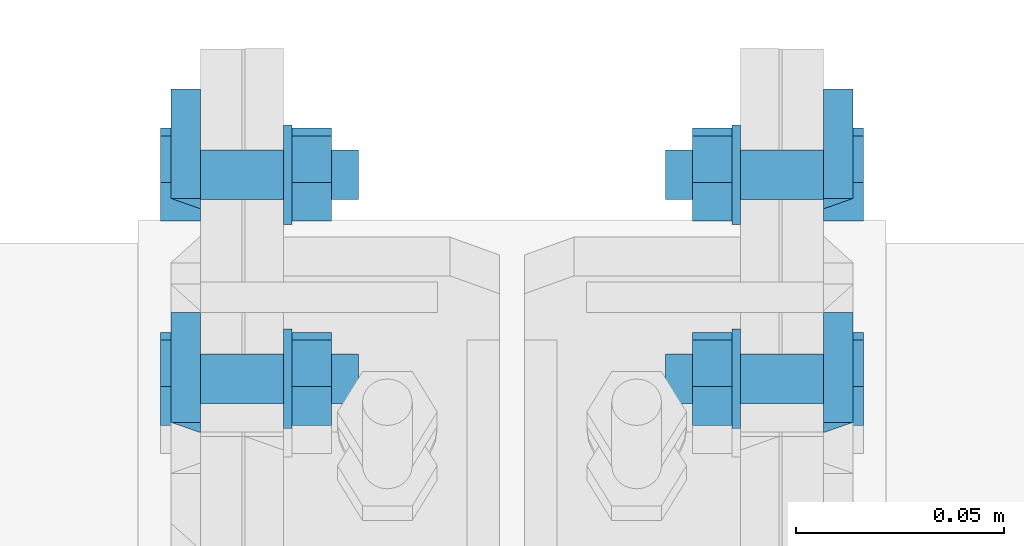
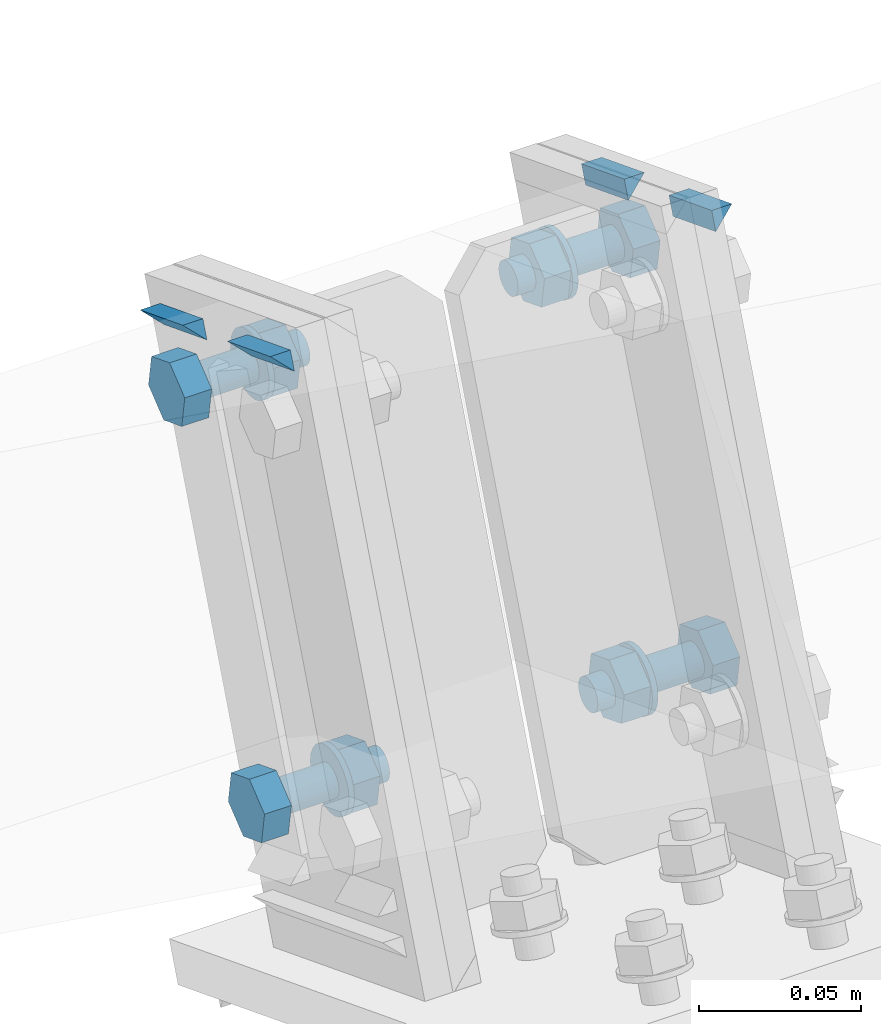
# One storey, part 51 of 72: 16 mechanical fasteners, 8 fasteners.
"""IFC4 building model written with IfcOpenShell, lengths in metres."""

from ifc_helpers import new_model, si_unit, frame, origin_with_axes, place, context, project, spatial, polyline, outline, extrude, type_object, element, save


model = new_model("IFC4")

# Units and contexts
model_context = context("Model", 3, precision=1e-05, world=origin_with_axes())
ifc_project = project(units=[si_unit("LENGTHUNIT", "METRE"), si_unit("AREAUNIT", "SQUARE_METRE"), si_unit("VOLUMEUNIT", "CUBIC_METRE"), si_unit("MASSUNIT", "GRAM", prefix="KILO"), si_unit("TIMEUNIT", "SECOND"), si_unit("PLANEANGLEUNIT", "RADIAN"), si_unit("SOLIDANGLEUNIT", "STERADIAN"), si_unit("THERMODYNAMICTEMPERATUREUNIT", "DEGREE_CELSIUS")], contexts=[model_context])

# Site, building, storey
placement_1 = place(None, origin_with_axes())
site = spatial("IfcSite", under=ifc_project, at=placement_1, Name="Italia", CompositionType="ELEMENT")
building = spatial("IfcBuilding", under=site, at=placement_1, Name="Uffici", CompositionType="ELEMENT")
storey = spatial("IfcBuildingStorey", under=building, at=placement_1, Name="Storey 0", CompositionType="ELEMENT", Elevation=0.0)

# Fasteners
fastener_type_1 = type_object("IfcFastenerType", Name="Collegamento 0208_0207", PredefinedType="WELD")
placement_2 = place(placement_1, origin_with_axes())
fastener_1_placement = place(placement_2, origin_with_axes())
element("IfcFastener", 1, at=fastener_1_placement, inside=storey, type_object=fastener_type_1, Name="Collegamento 0208_0207", context=model_context, shape_type="SweptSolid", body=[
    extrude(outline(polyline([(0.0, 0.0), (-0.00717354, 0.00695801), (0.0, 0.00695801), (0.0, 0.0)])), frame((6.68005, 4.93457, 5.31007), z_axis=(0.0, -0.932385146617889, 0.361466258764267), x_axis=(1.0, 0.0, 0.0)), (0.0, 0.0, 1.0), 0.0283003),
])
fastener_type_2 = type_object("IfcFastenerType", Name="Collegamento 0208_0207", PredefinedType="WELD")
fastener_2_placement = place(placement_2, origin_with_axes())
element("IfcFastener", 2, at=fastener_2_placement, inside=storey, type_object=fastener_type_2, Name="Collegamento 0208_0207", context=model_context, shape_type="SweptSolid", body=[
    extrude(outline(polyline([(0.0, 0.0), (-0.00717354, 0.00695801), (0.0, 0.00695801), (0.0, 0.0)])), frame((6.68005, 4.88068, 5.33097), z_axis=(0.0, -0.932388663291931, 0.361457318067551), x_axis=(1.0, 0.0, 0.0)), (0.0, 0.0, 1.0), 0.0282996),
])
fastener_type_3 = type_object("IfcFastenerType", Name="Collegamento 0208_0207", PredefinedType="WELD")
fastener_3_placement = place(placement_2, origin_with_axes())
element("IfcFastener", 3, at=fastener_3_placement, inside=storey, type_object=fastener_type_3, Name="Collegamento 0208_0207", context=model_context, shape_type="SweptSolid", body=[
    extrude(outline(polyline([(0.0, 0.0), (-0.00717354, 0.00695801), (0.0, 0.00695801), (0.0, 0.0)])), frame((6.68005, 4.93457, 5.31007), z_axis=(0.0, -0.932385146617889, 0.361466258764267), x_axis=(1.0, 0.0, 0.0)), (0.0, 0.0, 1.0), 0.0283003),
])
fastener_type_4 = type_object("IfcFastenerType", Name="Collegamento 0208_0207", PredefinedType="WELD")
fastener_4_placement = place(placement_2, origin_with_axes())
element("IfcFastener", 4, at=fastener_4_placement, inside=storey, type_object=fastener_type_4, Name="Collegamento 0208_0207", context=model_context, shape_type="SweptSolid", body=[
    extrude(outline(polyline([(0.0, 0.0), (-0.00717354, 0.00695801), (0.0, 0.00695801), (0.0, 0.0)])), frame((6.68005, 4.88068, 5.33097), z_axis=(0.0, -0.932388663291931, 0.361457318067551), x_axis=(1.0, 0.0, 0.0)), (0.0, 0.0, 1.0), 0.0282996),
])

# Mechanical fasteners
mechanical_fastener_type_1 = type_object("IfcMechanicalFastenerType", Name="Collegamento 0208_0207", PredefinedType="BOLT")
mechanical_fastener_1_placement = place(placement_2, origin_with_axes())
element("IfcMechanicalFastener", 5, at=mechanical_fastener_1_placement, inside=storey, type_object=mechanical_fastener_type_1, Name="Collegamento 0208_0207", NominalDiameter=0.0119998, context=model_context, shape_type="SweptSolid", body=[
    extrude(outline(polyline([(0.0, 0.0), (-0.0111885, -0.00433731), (-0.0205393, 0.00318336), (-0.0187016, 0.0150418), (-0.00751305, 0.0193791), (0.00183773, 0.0118585), (0.0, 0.0)])), frame((6.68, 4.8579, 5.16499), z_axis=(-1.0, 0.0, 0.0), x_axis=(0.0, -1.0, 0.0)), (0.0, 0.0, 1.0), 0.00960016),
])
mechanical_fastener_type_2 = type_object("IfcMechanicalFastenerType", Name="Collegamento 0208_0207", PredefinedType="BOLT")
mechanical_fastener_2_placement = place(placement_2, origin_with_axes())
element("IfcMechanicalFastener", 6, at=mechanical_fastener_2_placement, inside=storey, type_object=mechanical_fastener_type_2, Name="Collegamento 0208_0207", NominalDiameter=0.012, context=model_context, shape_type="SweptSolid", body=[
    extrude(outline(polyline([(0.0, 0.0), (-0.000204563, -0.00155306), (-0.000803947, -0.00299978), (-0.00175762, -0.00424242), (-0.00300026, -0.00519609), (-0.00444698, -0.00579548), (-0.00600004, -0.00600004), (-0.0075531, -0.00579548), (-0.00899982, -0.00519609), (-0.0102425, -0.00424242), (-0.0111961, -0.00299978), (-0.0117955, -0.00155306), (-0.0120001, 0.0), (-0.0117955, 0.00155306), (-0.0111961, 0.00299978), (-0.0102425, 0.00424242), (-0.00899982, 0.00519609), (-0.0075531, 0.00579548), (-0.00600004, 0.00600004), (-0.00444698, 0.00579548), (-0.00300026, 0.00519609), (-0.00175762, 0.00424242), (-0.000803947, 0.00299978), (-0.000204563, 0.00155306), (0.0, 0.0)])), frame((6.718, 4.86125, 5.17251), z_axis=(-1.0, 0.0, 0.0), x_axis=(0.0, -1.0, 0.0)), (0.0, 0.0, 1.0), 0.0380001),
])
mechanical_fastener_type_3 = type_object("IfcMechanicalFastenerType", Name="Collegamento 0208_0207", PredefinedType="BOLT")
mechanical_fastener_3_placement = place(placement_2, origin_with_axes())
element("IfcMechanicalFastener", 7, at=mechanical_fastener_3_placement, inside=storey, type_object=mechanical_fastener_type_3, Name="Collegamento 0208_0207", NominalDiameter=0.0119998, context=model_context, shape_type="SweptSolid", body=[
    extrude(outline(polyline([(0.0, 0.0), (-0.0111885, -0.00433731), (-0.0205393, 0.00318336), (-0.0187016, 0.0150418), (-0.00751305, 0.0193791), (0.00183773, 0.0118585), (0.0, 0.0)])), frame((6.7116, 4.8579, 5.16499), z_axis=(-1.0, 0.0, 0.0), x_axis=(0.0, -1.0, 0.0)), (0.0, 0.0, 1.0), 0.00960016),
])
mechanical_fastener_type_4 = type_object("IfcMechanicalFastenerType", Name="Collegamento 0208_0207", PredefinedType="BOLT")
mechanical_fastener_4_placement = place(placement_2, origin_with_axes())
element("IfcMechanicalFastener", 8, at=mechanical_fastener_4_placement, inside=storey, type_object=mechanical_fastener_type_4, Name="Collegamento 0208_0207", NominalDiameter=0.024, context=model_context, shape_type="SweptSolid", body=[
    extrude(outline(polyline([(0.0, 0.0), (-0.000409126, -0.00310564), (-0.00160789, -0.00600004), (-0.00351477, -0.00848532), (-0.00600004, -0.0103922), (-0.00889444, -0.011591), (-0.0120001, -0.0120001), (-0.0151057, -0.011591), (-0.0180001, -0.0103922), (-0.0204854, -0.00848532), (-0.0223923, -0.00600004), (-0.023591, -0.00310564), (-0.0240002, 0.0), (-0.023591, 0.00310564), (-0.0223923, 0.00600004), (-0.0204854, 0.00848532), (-0.0180001, 0.0103922), (-0.0151057, 0.011591), (-0.0120001, 0.0120001), (-0.00889444, 0.011591), (-0.00600004, 0.0103922), (-0.00351477, 0.00848532), (-0.00160789, 0.00600004), (-0.000409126, 0.00310564), (0.0, 0.0)])), frame((6.702, 4.85525, 5.17251), z_axis=(-1.0, 0.0, 0.0), x_axis=(0.0, -1.0, 0.0)), (0.0, 0.0, 1.0), 0.00199986),
])
mechanical_fastener_type_5 = type_object("IfcMechanicalFastenerType", Name="Collegamento 0208_0207", PredefinedType="BOLT")
mechanical_fastener_5_placement = place(placement_2, origin_with_axes())
element("IfcMechanicalFastener", 9, at=mechanical_fastener_5_placement, inside=storey, type_object=mechanical_fastener_type_5, Name="Collegamento 0208_0207", NominalDiameter=0.0119998, context=model_context, shape_type="SweptSolid", body=[
    extrude(outline(polyline([(0.0, 0.0), (-0.0111885, -0.00433779), (-0.0205393, 0.00318336), (-0.0187011, 0.0150418), (-0.00751257, 0.0193791), (0.00183821, 0.0118585), (0.0, 0.0)])), frame((6.68, 4.90705, 5.2918), z_axis=(-1.0, 0.0, 0.0), x_axis=(0.0, -1.0, 0.0)), (0.0, 0.0, 1.0), 0.00960016),
])
mechanical_fastener_type_6 = type_object("IfcMechanicalFastenerType", Name="Collegamento 0208_0207", PredefinedType="BOLT")
mechanical_fastener_6_placement = place(placement_2, origin_with_axes())
element("IfcMechanicalFastener", 10, at=mechanical_fastener_6_placement, inside=storey, type_object=mechanical_fastener_type_6, Name="Collegamento 0208_0207", NominalDiameter=0.012, context=model_context, shape_type="SweptSolid", body=[
    extrude(outline(polyline([(0.0, 0.0), (-0.000204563, -0.00155306), (-0.000803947, -0.00299978), (-0.00175762, -0.00424242), (-0.00300026, -0.00519609), (-0.00444698, -0.00579548), (-0.00600004, -0.00600004), (-0.0075531, -0.00579548), (-0.00899982, -0.00519609), (-0.0102425, -0.00424242), (-0.0111961, -0.00299978), (-0.0117955, -0.00155306), (-0.0120001, 0.0), (-0.0117955, 0.00155306), (-0.0111961, 0.00299978), (-0.0102425, 0.00424242), (-0.00899982, 0.00519609), (-0.0075531, 0.00579548), (-0.00600004, 0.00600004), (-0.00444698, 0.00579548), (-0.00300026, 0.00519609), (-0.00175762, 0.00424242), (-0.000803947, 0.00299978), (-0.000204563, 0.00155306), (0.0, 0.0)])), frame((6.718, 4.9104, 5.29932), z_axis=(-1.0, 0.0, 0.0), x_axis=(0.0, -1.0, 0.0)), (0.0, 0.0, 1.0), 0.0380001),
])
mechanical_fastener_type_7 = type_object("IfcMechanicalFastenerType", Name="Collegamento 0208_0207", PredefinedType="BOLT")
mechanical_fastener_7_placement = place(placement_2, origin_with_axes())
element("IfcMechanicalFastener", 11, at=mechanical_fastener_7_placement, inside=storey, type_object=mechanical_fastener_type_7, Name="Collegamento 0208_0207", NominalDiameter=0.0119998, context=model_context, shape_type="SweptSolid", body=[
    extrude(outline(polyline([(0.0, 0.0), (-0.0111885, -0.00433779), (-0.0205393, 0.00318336), (-0.0187011, 0.0150418), (-0.00751257, 0.0193791), (0.00183821, 0.0118585), (0.0, 0.0)])), frame((6.7116, 4.90705, 5.2918), z_axis=(-1.0, 0.0, 0.0), x_axis=(0.0, -1.0, 0.0)), (0.0, 0.0, 1.0), 0.00960016),
])
mechanical_fastener_type_8 = type_object("IfcMechanicalFastenerType", Name="Collegamento 0208_0207", PredefinedType="BOLT")
mechanical_fastener_8_placement = place(placement_2, origin_with_axes())
element("IfcMechanicalFastener", 12, at=mechanical_fastener_8_placement, inside=storey, type_object=mechanical_fastener_type_8, Name="Collegamento 0208_0207", NominalDiameter=0.024, context=model_context, shape_type="SweptSolid", body=[
    extrude(outline(polyline([(0.0, 0.0), (-0.000409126, -0.00310564), (-0.00160789, -0.00600004), (-0.00351477, -0.00848532), (-0.00600004, -0.0103922), (-0.00889444, -0.011591), (-0.0120001, -0.0120001), (-0.0151057, -0.011591), (-0.0180001, -0.0103922), (-0.0204854, -0.00848532), (-0.0223923, -0.00600004), (-0.023591, -0.00310564), (-0.0240002, 0.0), (-0.023591, 0.00310564), (-0.0223923, 0.00600004), (-0.0204854, 0.00848532), (-0.0180001, 0.0103922), (-0.0151057, 0.011591), (-0.0120001, 0.0120001), (-0.00889444, 0.011591), (-0.00600004, 0.0103922), (-0.00351477, 0.00848532), (-0.00160789, 0.00600004), (-0.000409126, 0.00310564), (0.0, 0.0)])), frame((6.702, 4.9044, 5.29932), z_axis=(-1.0, 0.0, 0.0), x_axis=(0.0, -1.0, 0.0)), (0.0, 0.0, 1.0), 0.00199986),
])

# Fasteners
fastener_type_5 = type_object("IfcFastenerType", Name="Collegamento 0208_0209", PredefinedType="WELD")
fastener_5_placement = place(placement_2, origin_with_axes())
element("IfcFastener", 13, at=fastener_5_placement, inside=storey, type_object=fastener_type_5, Name="Collegamento 0208_0209", context=model_context, shape_type="SweptSolid", body=[
    extrude(outline(polyline([(0.0, 0.0), (-0.00717354, 0.00695801), (0.0, 0.00695801), (0.0, 0.0)])), frame((6.82995, 4.90818, 5.3203), z_axis=(0.0, 0.932385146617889, -0.361466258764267), x_axis=(-1.0, 0.0, 0.0)), (0.0, 0.0, 1.0), 0.0283003),
])
fastener_type_6 = type_object("IfcFastenerType", Name="Collegamento 0208_0209", PredefinedType="WELD")
fastener_6_placement = place(placement_2, origin_with_axes())
element("IfcFastener", 14, at=fastener_6_placement, inside=storey, type_object=fastener_type_6, Name="Collegamento 0208_0209", context=model_context, shape_type="SweptSolid", body=[
    extrude(outline(polyline([(0.0, 0.0), (-0.00717354, 0.00695848), (0.0, 0.00695848), (0.0, 0.0)])), frame((6.82995, 4.85429, 5.34119), z_axis=(0.0, 0.932388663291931, -0.361457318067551), x_axis=(-1.0, 0.0, 0.0)), (0.0, 0.0, 1.0), 0.0282996),
])
fastener_type_7 = type_object("IfcFastenerType", Name="Collegamento 0208_0209", PredefinedType="WELD")
fastener_7_placement = place(placement_2, origin_with_axes())
element("IfcFastener", 15, at=fastener_7_placement, inside=storey, type_object=fastener_type_7, Name="Collegamento 0208_0209", context=model_context, shape_type="SweptSolid", body=[
    extrude(outline(polyline([(0.0, 0.0), (-0.00717354, 0.00695801), (0.0, 0.00695801), (0.0, 0.0)])), frame((6.82995, 4.90818, 5.3203), z_axis=(0.0, 0.932385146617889, -0.361466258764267), x_axis=(-1.0, 0.0, 0.0)), (0.0, 0.0, 1.0), 0.0283003),
])
fastener_type_8 = type_object("IfcFastenerType", Name="Collegamento 0208_0209", PredefinedType="WELD")
fastener_8_placement = place(placement_2, origin_with_axes())
element("IfcFastener", 16, at=fastener_8_placement, inside=storey, type_object=fastener_type_8, Name="Collegamento 0208_0209", context=model_context, shape_type="SweptSolid", body=[
    extrude(outline(polyline([(0.0, 0.0), (-0.00717354, 0.00695848), (0.0, 0.00695848), (0.0, 0.0)])), frame((6.82995, 4.85429, 5.34119), z_axis=(0.0, 0.932388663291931, -0.361457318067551), x_axis=(-1.0, 0.0, 0.0)), (0.0, 0.0, 1.0), 0.0282996),
])

# Mechanical fasteners
mechanical_fastener_type_9 = type_object("IfcMechanicalFastenerType", Name="Collegamento 0208_0209", PredefinedType="BOLT")
mechanical_fastener_9_placement = place(placement_2, origin_with_axes())
element("IfcMechanicalFastener", 17, at=mechanical_fastener_9_placement, inside=storey, type_object=mechanical_fastener_type_9, Name="Collegamento 0208_0209", NominalDiameter=0.0119998, context=model_context, shape_type="SweptSolid", body=[
    extrude(outline(polyline([(0.0, 0.0), (-0.0111885, 0.00433731), (-0.0130262, 0.0161958), (-0.00367546, 0.0237164), (0.00751305, 0.0193791), (0.00935078, 0.00752068), (0.0, 0.0)])), frame((6.83, 4.86908, 5.16066), z_axis=(1.0, 0.0, 0.0), x_axis=(0.0, 1.0, 0.0)), (0.0, 0.0, 1.0), 0.00960016),
])
mechanical_fastener_type_10 = type_object("IfcMechanicalFastenerType", Name="Collegamento 0208_0209", PredefinedType="BOLT")
mechanical_fastener_10_placement = place(placement_2, origin_with_axes())
element("IfcMechanicalFastener", 18, at=mechanical_fastener_10_placement, inside=storey, type_object=mechanical_fastener_type_10, Name="Collegamento 0208_0209", NominalDiameter=0.012, context=model_context, shape_type="SweptSolid", body=[
    extrude(outline(polyline([(0.0, 0.0), (-0.000204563, -0.00155306), (-0.000803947, -0.00299978), (-0.00175762, -0.00424242), (-0.00300026, -0.00519609), (-0.00444698, -0.00579548), (-0.00600004, -0.00600004), (-0.0075531, -0.00579548), (-0.00899982, -0.00519609), (-0.0102425, -0.00424242), (-0.0111961, -0.00299978), (-0.0117955, -0.00155306), (-0.0120001, 0.0), (-0.0117955, 0.00155306), (-0.0111961, 0.00299978), (-0.0102425, 0.00424242), (-0.00899982, 0.00519609), (-0.0075531, 0.00579548), (-0.00600004, 0.00600004), (-0.00444698, 0.00579548), (-0.00300026, 0.00519609), (-0.00175762, 0.00424242), (-0.000803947, 0.00299978), (-0.000204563, 0.00155306), (0.0, 0.0)])), frame((6.792, 4.87325, 5.17251), z_axis=(1.0, 0.0, 0.0), x_axis=(0.0, 1.0, 0.0)), (0.0, 0.0, 1.0), 0.0380001),
])
mechanical_fastener_type_11 = type_object("IfcMechanicalFastenerType", Name="Collegamento 0208_0209", PredefinedType="BOLT")
mechanical_fastener_11_placement = place(placement_2, origin_with_axes())
element("IfcMechanicalFastener", 19, at=mechanical_fastener_11_placement, inside=storey, type_object=mechanical_fastener_type_11, Name="Collegamento 0208_0209", NominalDiameter=0.0119998, context=model_context, shape_type="SweptSolid", body=[
    extrude(outline(polyline([(0.0, 0.0), (-0.0111885, 0.00433731), (-0.0130262, 0.0161958), (-0.00367546, 0.0237164), (0.00751305, 0.0193791), (0.00935078, 0.00752068), (0.0, 0.0)])), frame((6.7984, 4.86908, 5.16066), z_axis=(1.0, 0.0, 0.0), x_axis=(0.0, 1.0, 0.0)), (0.0, 0.0, 1.0), 0.00960016),
])
mechanical_fastener_type_12 = type_object("IfcMechanicalFastenerType", Name="Collegamento 0208_0209", PredefinedType="BOLT")
mechanical_fastener_12_placement = place(placement_2, origin_with_axes())
element("IfcMechanicalFastener", 20, at=mechanical_fastener_12_placement, inside=storey, type_object=mechanical_fastener_type_12, Name="Collegamento 0208_0209", NominalDiameter=0.024, context=model_context, shape_type="SweptSolid", body=[
    extrude(outline(polyline([(0.0, 0.0), (-0.000409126, -0.00310564), (-0.00160789, -0.00600004), (-0.00351477, -0.00848532), (-0.00600004, -0.0103922), (-0.00889444, -0.011591), (-0.0120001, -0.0120001), (-0.0151057, -0.011591), (-0.0180001, -0.0103922), (-0.0204854, -0.00848532), (-0.0223923, -0.00600004), (-0.023591, -0.00310564), (-0.0240002, 0.0), (-0.023591, 0.00310564), (-0.0223923, 0.00600004), (-0.0204854, 0.00848532), (-0.0180001, 0.0103922), (-0.0151057, 0.011591), (-0.0120001, 0.0120001), (-0.00889444, 0.011591), (-0.00600004, 0.0103922), (-0.00351477, 0.00848532), (-0.00160789, 0.00600004), (-0.000409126, 0.00310564), (0.0, 0.0)])), frame((6.808, 4.87925, 5.17251), z_axis=(1.0, 0.0, 0.0), x_axis=(0.0, 1.0, 0.0)), (0.0, 0.0, 1.0), 0.00199986),
])
mechanical_fastener_type_13 = type_object("IfcMechanicalFastenerType", Name="Collegamento 0208_0209", PredefinedType="BOLT")
mechanical_fastener_13_placement = place(placement_2, origin_with_axes())
element("IfcMechanicalFastener", 21, at=mechanical_fastener_13_placement, inside=storey, type_object=mechanical_fastener_type_13, Name="Collegamento 0208_0209", NominalDiameter=0.0119998, context=model_context, shape_type="SweptSolid", body=[
    extrude(outline(polyline([(0.0, 0.0), (-0.0111885, 0.00433779), (-0.0130267, 0.0161963), (-0.00367594, 0.0237169), (0.00751257, 0.0193796), (0.00935078, 0.00752115), (0.0, 0.0)])), frame((6.83, 4.91824, 5.28746), z_axis=(1.0, 0.0, 0.0), x_axis=(0.0, 1.0, 0.0)), (0.0, 0.0, 1.0), 0.00960016),
])
mechanical_fastener_type_14 = type_object("IfcMechanicalFastenerType", Name="Collegamento 0208_0209", PredefinedType="BOLT")
mechanical_fastener_14_placement = place(placement_2, origin_with_axes())
element("IfcMechanicalFastener", 22, at=mechanical_fastener_14_placement, inside=storey, type_object=mechanical_fastener_type_14, Name="Collegamento 0208_0209", NominalDiameter=0.012, context=model_context, shape_type="SweptSolid", body=[
    extrude(outline(polyline([(0.0, 0.0), (-0.000204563, -0.00155306), (-0.000803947, -0.00299978), (-0.00175762, -0.00424242), (-0.00300026, -0.00519609), (-0.00444698, -0.00579548), (-0.00600004, -0.00600004), (-0.0075531, -0.00579548), (-0.00899982, -0.00519609), (-0.0102425, -0.00424242), (-0.0111961, -0.00299978), (-0.0117955, -0.00155306), (-0.0120001, 0.0), (-0.0117955, 0.00155306), (-0.0111961, 0.00299978), (-0.0102425, 0.00424242), (-0.00899982, 0.00519609), (-0.0075531, 0.00579548), (-0.00600004, 0.00600004), (-0.00444698, 0.00579548), (-0.00300026, 0.00519609), (-0.00175762, 0.00424242), (-0.000803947, 0.00299978), (-0.000204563, 0.00155306), (0.0, 0.0)])), frame((6.792, 4.9224, 5.29932), z_axis=(1.0, 0.0, 0.0), x_axis=(0.0, 1.0, 0.0)), (0.0, 0.0, 1.0), 0.0380001),
])
mechanical_fastener_type_15 = type_object("IfcMechanicalFastenerType", Name="Collegamento 0208_0209", PredefinedType="BOLT")
mechanical_fastener_15_placement = place(placement_2, origin_with_axes())
element("IfcMechanicalFastener", 23, at=mechanical_fastener_15_placement, inside=storey, type_object=mechanical_fastener_type_15, Name="Collegamento 0208_0209", NominalDiameter=0.0119998, context=model_context, shape_type="SweptSolid", body=[
    extrude(outline(polyline([(0.0, 0.0), (-0.0111885, 0.00433779), (-0.0130267, 0.0161963), (-0.00367594, 0.0237169), (0.00751257, 0.0193796), (0.00935078, 0.00752115), (0.0, 0.0)])), frame((6.7984, 4.91824, 5.28746), z_axis=(1.0, 0.0, 0.0), x_axis=(0.0, 1.0, 0.0)), (0.0, 0.0, 1.0), 0.00960016),
])
mechanical_fastener_type_16 = type_object("IfcMechanicalFastenerType", Name="Collegamento 0208_0209", PredefinedType="BOLT")
mechanical_fastener_16_placement = place(placement_2, origin_with_axes())
element("IfcMechanicalFastener", 24, at=mechanical_fastener_16_placement, inside=storey, type_object=mechanical_fastener_type_16, Name="Collegamento 0208_0209", NominalDiameter=0.024, context=model_context, shape_type="SweptSolid", body=[
    extrude(outline(polyline([(0.0, 0.0), (-0.000409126, -0.00310564), (-0.00160789, -0.00600004), (-0.00351477, -0.00848532), (-0.00600004, -0.0103922), (-0.00889444, -0.011591), (-0.0120001, -0.0120001), (-0.0151057, -0.011591), (-0.0180001, -0.0103922), (-0.0204854, -0.00848532), (-0.0223923, -0.00600004), (-0.023591, -0.00310564), (-0.0240002, 0.0), (-0.023591, 0.00310564), (-0.0223923, 0.00600004), (-0.0204854, 0.00848532), (-0.0180001, 0.0103922), (-0.0151057, 0.011591), (-0.0120001, 0.0120001), (-0.00889444, 0.011591), (-0.00600004, 0.0103922), (-0.00351477, 0.00848532), (-0.00160789, 0.00600004), (-0.000409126, 0.00310564), (0.0, 0.0)])), frame((6.808, 4.9284, 5.29932), z_axis=(1.0, 0.0, 0.0), x_axis=(0.0, 1.0, 0.0)), (0.0, 0.0, 1.0), 0.00199986),
])

save(model, "model.ifc")
